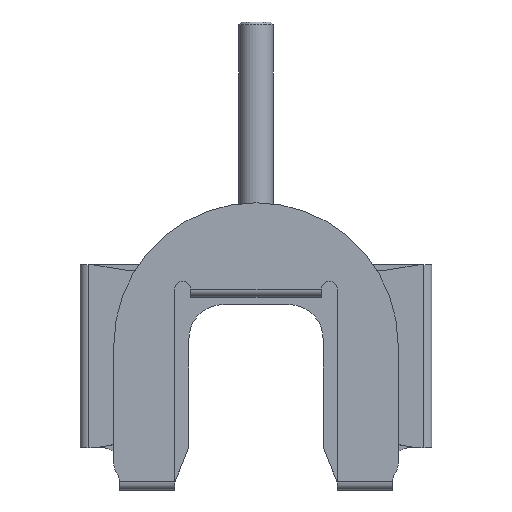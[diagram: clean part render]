
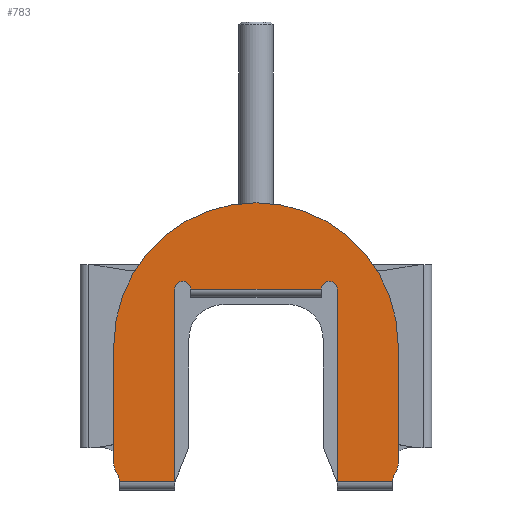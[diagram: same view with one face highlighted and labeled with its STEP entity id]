
A CAD part, top view. The second image highlights one B-rep face of the part: STEP entity #783.
In plain terms, the highlighted planar face has unit normal (0, 0, 1).
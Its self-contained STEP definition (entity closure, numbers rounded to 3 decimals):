
#345=LINE('',#4281,#588);
#347=LINE('',#4289,#590);
#348=LINE('',#4291,#591);
#351=LINE('',#4299,#594);
#354=LINE('',#4307,#597);
#356=LINE('',#4313,#599);
#357=LINE('',#4317,#600);
#358=LINE('',#4321,#601);
#359=LINE('',#4323,#602);
#588=VECTOR('',#3444,1.);
#590=VECTOR('',#3454,1.);
#591=VECTOR('',#3457,1.);
#594=VECTOR('',#3466,1.);
#597=VECTOR('',#3475,1.);
#599=VECTOR('',#3483,1.);
#600=VECTOR('',#3486,1.);
#601=VECTOR('',#3489,1.);
#602=VECTOR('',#3490,1.);
#783=ADVANCED_FACE('',(#1006),#893,.T.);
#893=PLANE('',#2889);
#1006=FACE_OUTER_BOUND('',#1162,.T.);
#1162=EDGE_LOOP('',(#1699,#1700,#1701,#1702,#1703,#1704,#1705,#1706,#1707,
#1708,#1709,#1710,#1711,#1712,#1713,#1714));
#1699=ORIENTED_EDGE('',*,*,#2495,.T.);
#1700=ORIENTED_EDGE('',*,*,#2496,.F.);
#1701=ORIENTED_EDGE('',*,*,#2497,.T.);
#1702=ORIENTED_EDGE('',*,*,#2498,.F.);
#1703=ORIENTED_EDGE('',*,*,#2499,.F.);
#1704=ORIENTED_EDGE('',*,*,#2500,.T.);
#1705=ORIENTED_EDGE('',*,*,#2501,.T.);
#1706=ORIENTED_EDGE('',*,*,#2502,.F.);
#1707=ORIENTED_EDGE('',*,*,#2480,.T.);
#1708=ORIENTED_EDGE('',*,*,#2483,.T.);
#1709=ORIENTED_EDGE('',*,*,#2484,.F.);
#1710=ORIENTED_EDGE('',*,*,#2485,.F.);
#1711=ORIENTED_EDGE('',*,*,#2487,.T.);
#1712=ORIENTED_EDGE('',*,*,#2489,.T.);
#1713=ORIENTED_EDGE('',*,*,#2491,.F.);
#1714=ORIENTED_EDGE('',*,*,#2493,.T.);
#2149=VERTEX_POINT('',#4224);
#2150=VERTEX_POINT('',#4230);
#2151=VERTEX_POINT('',#4234);
#2169=VERTEX_POINT('',#4282);
#2170=VERTEX_POINT('',#4286);
#2171=VERTEX_POINT('',#4294);
#2172=VERTEX_POINT('',#4298);
#2173=VERTEX_POINT('',#4302);
#2174=VERTEX_POINT('',#4306);
#2175=VERTEX_POINT('',#4310);
#2176=VERTEX_POINT('',#4314);
#2177=VERTEX_POINT('',#4316);
#2178=VERTEX_POINT('',#4318);
#2179=VERTEX_POINT('',#4320);
#2180=VERTEX_POINT('',#4322);
#2181=VERTEX_POINT('',#4324);
#2480=EDGE_CURVE('',#2169,#2149,#345,.T.);
#2483=EDGE_CURVE('',#2149,#2170,#2686,.T.);
#2484=EDGE_CURVE('',#2150,#2170,#347,.T.);
#2485=EDGE_CURVE('',#2151,#2150,#348,.T.);
#2487=EDGE_CURVE('',#2151,#2171,#2687,.T.);
#2489=EDGE_CURVE('',#2171,#2172,#351,.T.);
#2491=EDGE_CURVE('',#2173,#2172,#2688,.T.);
#2493=EDGE_CURVE('',#2173,#2174,#354,.T.);
#2495=EDGE_CURVE('',#2174,#2175,#2689,.T.);
#2496=EDGE_CURVE('',#2176,#2175,#356,.T.);
#2497=EDGE_CURVE('',#2176,#2177,#2690,.T.);
#2498=EDGE_CURVE('',#2178,#2177,#357,.T.);
#2499=EDGE_CURVE('',#2179,#2178,#2691,.T.);
#2500=EDGE_CURVE('',#2179,#2180,#358,.T.);
#2501=EDGE_CURVE('',#2180,#2181,#359,.T.);
#2502=EDGE_CURVE('',#2169,#2181,#2692,.T.);
#2686=CIRCLE('',#2874,0.7);
#2687=CIRCLE('',#2878,1.35);
#2688=CIRCLE('',#2881,1.35);
#2689=CIRCLE('',#2884,12.5);
#2690=CIRCLE('',#2886,1.35);
#2691=CIRCLE('',#2887,1.35);
#2692=CIRCLE('',#2888,0.7);
#2874=AXIS2_PLACEMENT_3D('',#4287,#3450,#3451);
#2878=AXIS2_PLACEMENT_3D('',#4295,#3461,#3462);
#2881=AXIS2_PLACEMENT_3D('',#4303,#3470,#3471);
#2884=AXIS2_PLACEMENT_3D('',#4311,#3479,#3480);
#2886=AXIS2_PLACEMENT_3D('',#4315,#3484,#3485);
#2887=AXIS2_PLACEMENT_3D('',#4319,#3487,#3488);
#2888=AXIS2_PLACEMENT_3D('',#4325,#3491,#3492);
#2889=AXIS2_PLACEMENT_3D('',#4326,#3493,#3494);
#3444=DIRECTION('',(1.,0.,0.));
#3450=DIRECTION('',(0.,0.,-1.));
#3451=DIRECTION('',(-1.,0.,0.));
#3454=DIRECTION('',(0.,1.,0.));
#3457=DIRECTION('',(-1.,0.,0.));
#3461=DIRECTION('',(0.,0.,-1.));
#3462=DIRECTION('',(-1.,0.,0.));
#3466=DIRECTION('',(0.499,0.866,0.));
#3470=DIRECTION('',(0.,0.,-1.));
#3471=DIRECTION('',(-1.,0.,0.));
#3475=DIRECTION('',(0.,1.,0.));
#3479=DIRECTION('',(0.,0.,1.));
#3480=DIRECTION('',(1.,0.,0.));
#3483=DIRECTION('',(0.,1.,0.));
#3484=DIRECTION('',(0.,0.,1.));
#3485=DIRECTION('',(1.,0.,0.));
#3486=DIRECTION('',(-0.499,0.866,0.));
#3487=DIRECTION('',(0.,0.,1.));
#3488=DIRECTION('',(1.,0.,0.));
#3489=DIRECTION('',(1.,0.,0.));
#3490=DIRECTION('',(0.,1.,0.));
#3491=DIRECTION('',(0.,0.,1.));
#3492=DIRECTION('',(1.,0.,0.));
#3493=DIRECTION('',(0.,0.,1.));
#3494=DIRECTION('',(0.,-1.,0.));
#4224=CARTESIAN_POINT('',(5.75,4.899,1.132));
#4230=CARTESIAN_POINT('',(7.15,-12.05,1.132));
#4234=CARTESIAN_POINT('',(12.,-12.05,1.132));
#4281=CARTESIAN_POINT('',(-5.75,4.899,1.132));
#4282=CARTESIAN_POINT('',(-5.75,4.899,1.132));
#4286=CARTESIAN_POINT('',(7.15,4.899,1.132));
#4287=CARTESIAN_POINT('',(6.45,4.899,1.132));
#4289=CARTESIAN_POINT('',(7.15,-12.05,1.132));
#4291=CARTESIAN_POINT('',(12.,-12.05,1.132));
#4294=CARTESIAN_POINT('',(12.18,-11.376,1.132));
#4295=CARTESIAN_POINT('',(13.35,-12.05,1.132));
#4298=CARTESIAN_POINT('',(12.32,-11.134,1.132));
#4299=CARTESIAN_POINT('',(12.18,-11.376,1.132));
#4302=CARTESIAN_POINT('',(12.5,-10.46,1.132));
#4303=CARTESIAN_POINT('',(11.15,-10.46,1.132));
#4306=CARTESIAN_POINT('',(12.5,0.,1.132));
#4307=CARTESIAN_POINT('',(12.5,-10.46,1.132));
#4310=CARTESIAN_POINT('',(-12.5,0.,1.132));
#4311=CARTESIAN_POINT('',(0.,0.,1.132));
#4313=CARTESIAN_POINT('',(-12.5,-10.46,1.132));
#4314=CARTESIAN_POINT('',(-12.5,-10.46,1.132));
#4315=CARTESIAN_POINT('',(-11.15,-10.46,1.132));
#4316=CARTESIAN_POINT('',(-12.32,-11.134,1.132));
#4317=CARTESIAN_POINT('',(-12.18,-11.376,1.132));
#4318=CARTESIAN_POINT('',(-12.18,-11.376,1.132));
#4319=CARTESIAN_POINT('',(-13.35,-12.05,1.132));
#4320=CARTESIAN_POINT('',(-12.,-12.05,1.132));
#4321=CARTESIAN_POINT('',(-12.,-12.05,1.132));
#4322=CARTESIAN_POINT('',(-7.15,-12.05,1.132));
#4323=CARTESIAN_POINT('',(-7.15,-12.05,1.132));
#4324=CARTESIAN_POINT('',(-7.15,4.899,1.132));
#4325=CARTESIAN_POINT('',(-6.45,4.899,1.132));
#4326=CARTESIAN_POINT('',(-7.15,-12.05,1.132));
